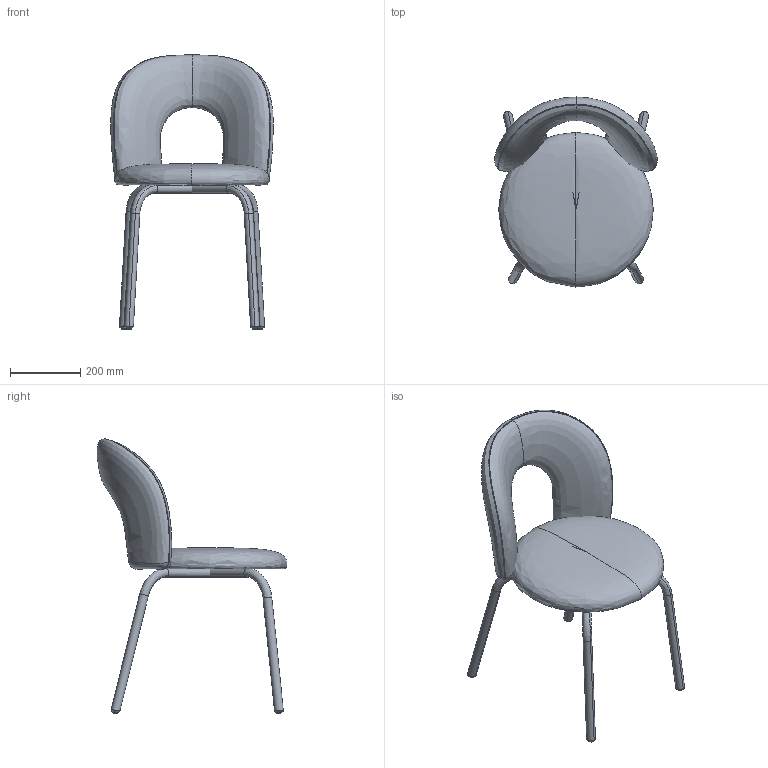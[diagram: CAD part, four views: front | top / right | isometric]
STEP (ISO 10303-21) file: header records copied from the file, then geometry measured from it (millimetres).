
FILE_DESCRIPTION(/* description */ (''),/* implementation_level */ '2;1');
FILE_NAME(/* name */ 'Paulin_M_PabloReganoStudio',/* time_stamp */ '2026-04-02T07:28:52+02:00',/* author */ (''),/* organization */ (''),/* preprocessor_version */ 'ST-DEVELOPER v19.2',/* originating_system */ 'Rhino 8.5',/* authorisation */ '');
FILE_SCHEMA (('AP242_MANAGED_MODEL_BASED_3D_ENGINEERING_MIM_LF { 1 0 10303 442 3 1 4 }'));
Length unit declared in the file: millimetre
Products named in the file (1): Document
Bounding box: 461.99 x 540.22 x 779.98 mm (x, y, z)
Volume: 7597652 mm3; surface area: 1179400.9 mm2
Topology: 1 solids, 71 shells, 96 faces, 354 edges, 286 vertices
Faces by surface type: bspline 68, cylinder 16, plane 12
Entity records: 37895 total; most frequent: CARTESIAN_POINT 35859, ORIENTED_EDGE 394, EDGE_CURVE 344, VERTEX_POINT 286, DIRECTION 170, AXIS2_PLACEMENT_3D 99, ADVANCED_FACE 96, FACE_OUTER_BOUND 96
